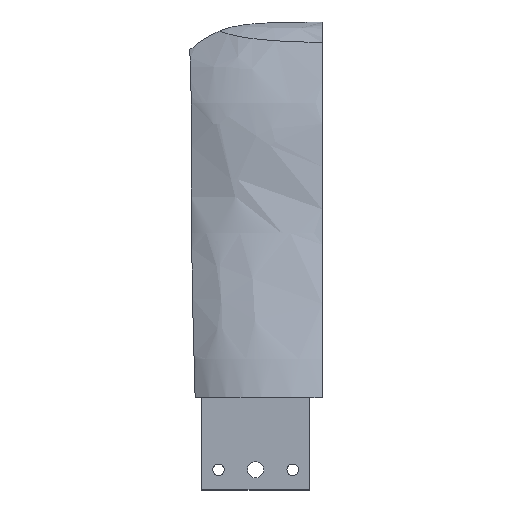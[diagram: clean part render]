
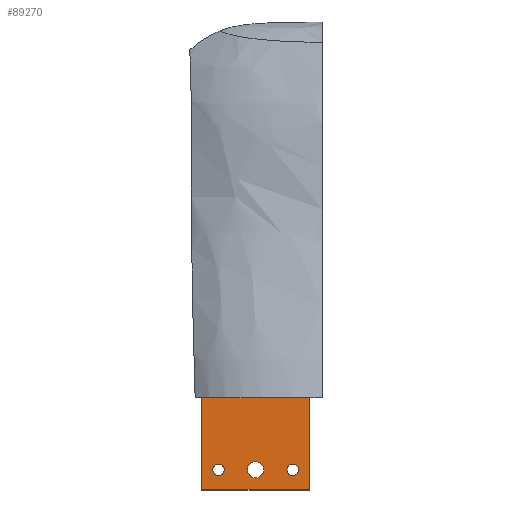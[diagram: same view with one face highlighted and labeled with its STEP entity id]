
A CAD part, top view. The second image highlights one B-rep face of the part: STEP entity #89270.
In plain terms, the highlighted planar face has unit normal (0, 0, 1).
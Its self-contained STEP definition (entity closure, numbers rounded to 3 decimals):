
#88340 = PLANE('',#88341);
#88341 = AXIS2_PLACEMENT_3D('',#88342,#88343,#88344);
#88342 = CARTESIAN_POINT('',(15.5,-59.4,19.01));
#88343 = DIRECTION('',(1.,0.,-0.));
#88344 = DIRECTION('',(0.,0.,1.));
#88679 = PLANE('',#88680);
#88680 = AXIS2_PLACEMENT_3D('',#88681,#88682,#88683);
#88681 = CARTESIAN_POINT('',(31.5,-59.4,19.01));
#88682 = DIRECTION('',(1.,0.,-0.));
#88683 = DIRECTION('',(0.,0.,1.));
#88876 = PLANE('',#88877);
#88877 = AXIS2_PLACEMENT_3D('',#88878,#88879,#88880);
#88878 = CARTESIAN_POINT('',(15.5,-59.4,19.01));
#88879 = DIRECTION('',(-0.,1.,0.));
#88880 = DIRECTION('',(0.,0.,1.));
#89089 = PLANE('',#89090);
#89090 = AXIS2_PLACEMENT_3D('',#89091,#89092,#89093);
#89091 = CARTESIAN_POINT('',(15.5,-73.4,19.));
#89092 = DIRECTION('',(-0.,1.,0.));
#89093 = DIRECTION('',(0.,0.,1.));
#89142 = CYLINDRICAL_SURFACE('',#89143,0.85);
#89143 = AXIS2_PLACEMENT_3D('',#89144,#89145,#89146);
#89144 = CARTESIAN_POINT('',(18.,-70.4,18.));
#89145 = DIRECTION('',(0.,0.,1.));
#89146 = DIRECTION('',(1.,0.,-0.));
#89173 = CYLINDRICAL_SURFACE('',#89174,1.2);
#89174 = AXIS2_PLACEMENT_3D('',#89175,#89176,#89177);
#89175 = CARTESIAN_POINT('',(23.5,-70.4,18.));
#89176 = DIRECTION('',(0.,0.,1.));
#89177 = DIRECTION('',(1.,0.,-0.));
#89204 = CYLINDRICAL_SURFACE('',#89205,0.85);
#89205 = AXIS2_PLACEMENT_3D('',#89206,#89207,#89208);
#89206 = CARTESIAN_POINT('',(29.,-70.4,18.));
#89207 = DIRECTION('',(0.,0.,1.));
#89208 = DIRECTION('',(1.,0.,-0.));
#89219 = EDGE_CURVE('',#89220,#89220,#89222,.T.);
#89220 = VERTEX_POINT('',#89221);
#89221 = CARTESIAN_POINT('',(29.85,-70.4,20.));
#89222 = SURFACE_CURVE('',#89223,(#89228,#89235),.PCURVE_S1.);
#89223 = CIRCLE('',#89224,0.85);
#89224 = AXIS2_PLACEMENT_3D('',#89225,#89226,#89227);
#89225 = CARTESIAN_POINT('',(29.,-70.4,20.));
#89226 = DIRECTION('',(0.,0.,1.));
#89227 = DIRECTION('',(1.,0.,-0.));
#89228 = PCURVE('',#89204,#89229);
#89229 = DEFINITIONAL_REPRESENTATION('',(#89230),#89234);
#89230 = LINE('',#89231,#89232);
#89231 = CARTESIAN_POINT('',(0.,2.));
#89232 = VECTOR('',#89233,1.);
#89233 = DIRECTION('',(1.,0.));
#89234 = ( GEOMETRIC_REPRESENTATION_CONTEXT(2) 
PARAMETRIC_REPRESENTATION_CONTEXT() REPRESENTATION_CONTEXT('2D SPACE',''
  ) );
#89235 = PCURVE('',#89236,#89241);
#89236 = PLANE('',#89237);
#89237 = AXIS2_PLACEMENT_3D('',#89238,#89239,#89240);
#89238 = CARTESIAN_POINT('',(15.5,-73.4,20.));
#89239 = DIRECTION('',(0.,0.,1.));
#89240 = DIRECTION('',(1.,0.,-0.));
#89241 = DEFINITIONAL_REPRESENTATION('',(#89242),#89246);
#89242 = CIRCLE('',#89243,0.85);
#89243 = AXIS2_PLACEMENT_2D('',#89244,#89245);
#89244 = CARTESIAN_POINT('',(13.5,3.));
#89245 = DIRECTION('',(1.,0.));
#89246 = ( GEOMETRIC_REPRESENTATION_CONTEXT(2) 
PARAMETRIC_REPRESENTATION_CONTEXT() REPRESENTATION_CONTEXT('2D SPACE',''
  ) );
#89270 = ADVANCED_FACE('',(#89271,#89363,#89389,#89415),#89236,.T.);
#89271 = FACE_BOUND('',#89272,.T.);
#89272 = EDGE_LOOP('',(#89273,#89298,#89321,#89344));
#89273 = ORIENTED_EDGE('',*,*,#89274,.F.);
#89274 = EDGE_CURVE('',#89275,#89277,#89279,.T.);
#89275 = VERTEX_POINT('',#89276);
#89276 = CARTESIAN_POINT('',(15.5,-73.4,20.));
#89277 = VERTEX_POINT('',#89278);
#89278 = CARTESIAN_POINT('',(15.5,-59.4,20.));
#89279 = SURFACE_CURVE('',#89280,(#89284,#89291),.PCURVE_S1.);
#89280 = LINE('',#89281,#89282);
#89281 = CARTESIAN_POINT('',(15.5,-73.4,20.));
#89282 = VECTOR('',#89283,1.);
#89283 = DIRECTION('',(-0.,1.,0.));
#89284 = PCURVE('',#89236,#89285);
#89285 = DEFINITIONAL_REPRESENTATION('',(#89286),#89290);
#89286 = LINE('',#89287,#89288);
#89287 = CARTESIAN_POINT('',(0.,0.));
#89288 = VECTOR('',#89289,1.);
#89289 = DIRECTION('',(0.,1.));
#89290 = ( GEOMETRIC_REPRESENTATION_CONTEXT(2) 
PARAMETRIC_REPRESENTATION_CONTEXT() REPRESENTATION_CONTEXT('2D SPACE',''
  ) );
#89291 = PCURVE('',#88340,#89292);
#89292 = DEFINITIONAL_REPRESENTATION('',(#89293),#89297);
#89293 = LINE('',#89294,#89295);
#89294 = CARTESIAN_POINT('',(0.99,14.));
#89295 = VECTOR('',#89296,1.);
#89296 = DIRECTION('',(0.,-1.));
#89297 = ( GEOMETRIC_REPRESENTATION_CONTEXT(2) 
PARAMETRIC_REPRESENTATION_CONTEXT() REPRESENTATION_CONTEXT('2D SPACE',''
  ) );
#89298 = ORIENTED_EDGE('',*,*,#89299,.T.);
#89299 = EDGE_CURVE('',#89275,#89300,#89302,.T.);
#89300 = VERTEX_POINT('',#89301);
#89301 = CARTESIAN_POINT('',(31.5,-73.4,20.));
#89302 = SURFACE_CURVE('',#89303,(#89307,#89314),.PCURVE_S1.);
#89303 = LINE('',#89304,#89305);
#89304 = CARTESIAN_POINT('',(15.5,-73.4,20.));
#89305 = VECTOR('',#89306,1.);
#89306 = DIRECTION('',(1.,0.,-0.));
#89307 = PCURVE('',#89236,#89308);
#89308 = DEFINITIONAL_REPRESENTATION('',(#89309),#89313);
#89309 = LINE('',#89310,#89311);
#89310 = CARTESIAN_POINT('',(0.,0.));
#89311 = VECTOR('',#89312,1.);
#89312 = DIRECTION('',(1.,0.));
#89313 = ( GEOMETRIC_REPRESENTATION_CONTEXT(2) 
PARAMETRIC_REPRESENTATION_CONTEXT() REPRESENTATION_CONTEXT('2D SPACE',''
  ) );
#89314 = PCURVE('',#89089,#89315);
#89315 = DEFINITIONAL_REPRESENTATION('',(#89316),#89320);
#89316 = LINE('',#89317,#89318);
#89317 = CARTESIAN_POINT('',(1.,0.));
#89318 = VECTOR('',#89319,1.);
#89319 = DIRECTION('',(0.,1.));
#89320 = ( GEOMETRIC_REPRESENTATION_CONTEXT(2) 
PARAMETRIC_REPRESENTATION_CONTEXT() REPRESENTATION_CONTEXT('2D SPACE',''
  ) );
#89321 = ORIENTED_EDGE('',*,*,#89322,.T.);
#89322 = EDGE_CURVE('',#89300,#89323,#89325,.T.);
#89323 = VERTEX_POINT('',#89324);
#89324 = CARTESIAN_POINT('',(31.5,-59.4,20.));
#89325 = SURFACE_CURVE('',#89326,(#89330,#89337),.PCURVE_S1.);
#89326 = LINE('',#89327,#89328);
#89327 = CARTESIAN_POINT('',(31.5,-73.4,20.));
#89328 = VECTOR('',#89329,1.);
#89329 = DIRECTION('',(-0.,1.,0.));
#89330 = PCURVE('',#89236,#89331);
#89331 = DEFINITIONAL_REPRESENTATION('',(#89332),#89336);
#89332 = LINE('',#89333,#89334);
#89333 = CARTESIAN_POINT('',(16.,0.));
#89334 = VECTOR('',#89335,1.);
#89335 = DIRECTION('',(0.,1.));
#89336 = ( GEOMETRIC_REPRESENTATION_CONTEXT(2) 
PARAMETRIC_REPRESENTATION_CONTEXT() REPRESENTATION_CONTEXT('2D SPACE',''
  ) );
#89337 = PCURVE('',#88679,#89338);
#89338 = DEFINITIONAL_REPRESENTATION('',(#89339),#89343);
#89339 = LINE('',#89340,#89341);
#89340 = CARTESIAN_POINT('',(0.99,14.));
#89341 = VECTOR('',#89342,1.);
#89342 = DIRECTION('',(0.,-1.));
#89343 = ( GEOMETRIC_REPRESENTATION_CONTEXT(2) 
PARAMETRIC_REPRESENTATION_CONTEXT() REPRESENTATION_CONTEXT('2D SPACE',''
  ) );
#89344 = ORIENTED_EDGE('',*,*,#89345,.F.);
#89345 = EDGE_CURVE('',#89277,#89323,#89346,.T.);
#89346 = SURFACE_CURVE('',#89347,(#89351,#89357),.PCURVE_S1.);
#89347 = LINE('',#89348,#89349);
#89348 = CARTESIAN_POINT('',(15.5,-59.4,20.));
#89349 = VECTOR('',#89350,1.);
#89350 = DIRECTION('',(1.,0.,-0.));
#89351 = PCURVE('',#89236,#89352);
#89352 = DEFINITIONAL_REPRESENTATION('',(#89353),#89356);
#89353 = B_SPLINE_CURVE_WITH_KNOTS('',1,(#89354,#89355),.UNSPECIFIED.,
  .F.,.F.,(2,2),(0.,16.),.PIECEWISE_BEZIER_KNOTS.);
#89354 = CARTESIAN_POINT('',(0.,14.));
#89355 = CARTESIAN_POINT('',(16.,14.));
#89356 = ( GEOMETRIC_REPRESENTATION_CONTEXT(2) 
PARAMETRIC_REPRESENTATION_CONTEXT() REPRESENTATION_CONTEXT('2D SPACE',''
  ) );
#89357 = PCURVE('',#88876,#89358);
#89358 = DEFINITIONAL_REPRESENTATION('',(#89359),#89362);
#89359 = B_SPLINE_CURVE_WITH_KNOTS('',1,(#89360,#89361),.UNSPECIFIED.,
  .F.,.F.,(2,2),(0.,16.),.PIECEWISE_BEZIER_KNOTS.);
#89360 = CARTESIAN_POINT('',(0.99,0.));
#89361 = CARTESIAN_POINT('',(0.99,16.));
#89362 = ( GEOMETRIC_REPRESENTATION_CONTEXT(2) 
PARAMETRIC_REPRESENTATION_CONTEXT() REPRESENTATION_CONTEXT('2D SPACE',''
  ) );
#89363 = FACE_BOUND('',#89364,.T.);
#89364 = EDGE_LOOP('',(#89365));
#89365 = ORIENTED_EDGE('',*,*,#89366,.F.);
#89366 = EDGE_CURVE('',#89367,#89367,#89369,.T.);
#89367 = VERTEX_POINT('',#89368);
#89368 = CARTESIAN_POINT('',(18.85,-70.4,20.));
#89369 = SURFACE_CURVE('',#89370,(#89375,#89382),.PCURVE_S1.);
#89370 = CIRCLE('',#89371,0.85);
#89371 = AXIS2_PLACEMENT_3D('',#89372,#89373,#89374);
#89372 = CARTESIAN_POINT('',(18.,-70.4,20.));
#89373 = DIRECTION('',(0.,0.,1.));
#89374 = DIRECTION('',(1.,0.,-0.));
#89375 = PCURVE('',#89236,#89376);
#89376 = DEFINITIONAL_REPRESENTATION('',(#89377),#89381);
#89377 = CIRCLE('',#89378,0.85);
#89378 = AXIS2_PLACEMENT_2D('',#89379,#89380);
#89379 = CARTESIAN_POINT('',(2.5,3.));
#89380 = DIRECTION('',(1.,0.));
#89381 = ( GEOMETRIC_REPRESENTATION_CONTEXT(2) 
PARAMETRIC_REPRESENTATION_CONTEXT() REPRESENTATION_CONTEXT('2D SPACE',''
  ) );
#89382 = PCURVE('',#89142,#89383);
#89383 = DEFINITIONAL_REPRESENTATION('',(#89384),#89388);
#89384 = LINE('',#89385,#89386);
#89385 = CARTESIAN_POINT('',(0.,2.));
#89386 = VECTOR('',#89387,1.);
#89387 = DIRECTION('',(1.,0.));
#89388 = ( GEOMETRIC_REPRESENTATION_CONTEXT(2) 
PARAMETRIC_REPRESENTATION_CONTEXT() REPRESENTATION_CONTEXT('2D SPACE',''
  ) );
#89389 = FACE_BOUND('',#89390,.T.);
#89390 = EDGE_LOOP('',(#89391));
#89391 = ORIENTED_EDGE('',*,*,#89392,.F.);
#89392 = EDGE_CURVE('',#89393,#89393,#89395,.T.);
#89393 = VERTEX_POINT('',#89394);
#89394 = CARTESIAN_POINT('',(24.7,-70.4,20.));
#89395 = SURFACE_CURVE('',#89396,(#89401,#89408),.PCURVE_S1.);
#89396 = CIRCLE('',#89397,1.2);
#89397 = AXIS2_PLACEMENT_3D('',#89398,#89399,#89400);
#89398 = CARTESIAN_POINT('',(23.5,-70.4,20.));
#89399 = DIRECTION('',(0.,0.,1.));
#89400 = DIRECTION('',(1.,0.,-0.));
#89401 = PCURVE('',#89236,#89402);
#89402 = DEFINITIONAL_REPRESENTATION('',(#89403),#89407);
#89403 = CIRCLE('',#89404,1.2);
#89404 = AXIS2_PLACEMENT_2D('',#89405,#89406);
#89405 = CARTESIAN_POINT('',(8.,3.));
#89406 = DIRECTION('',(1.,0.));
#89407 = ( GEOMETRIC_REPRESENTATION_CONTEXT(2) 
PARAMETRIC_REPRESENTATION_CONTEXT() REPRESENTATION_CONTEXT('2D SPACE',''
  ) );
#89408 = PCURVE('',#89173,#89409);
#89409 = DEFINITIONAL_REPRESENTATION('',(#89410),#89414);
#89410 = LINE('',#89411,#89412);
#89411 = CARTESIAN_POINT('',(0.,2.));
#89412 = VECTOR('',#89413,1.);
#89413 = DIRECTION('',(1.,0.));
#89414 = ( GEOMETRIC_REPRESENTATION_CONTEXT(2) 
PARAMETRIC_REPRESENTATION_CONTEXT() REPRESENTATION_CONTEXT('2D SPACE',''
  ) );
#89415 = FACE_BOUND('',#89416,.T.);
#89416 = EDGE_LOOP('',(#89417));
#89417 = ORIENTED_EDGE('',*,*,#89219,.F.);
